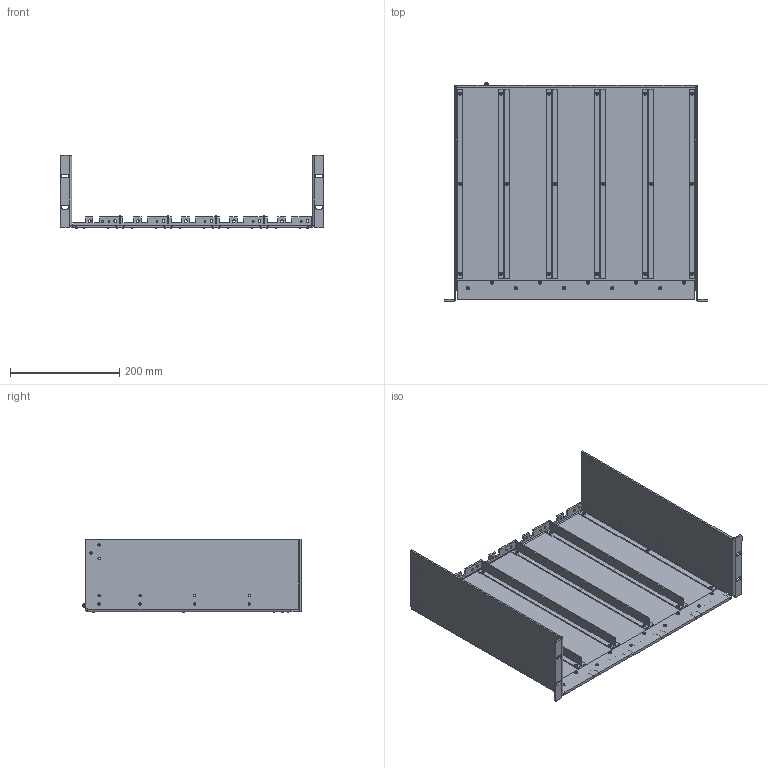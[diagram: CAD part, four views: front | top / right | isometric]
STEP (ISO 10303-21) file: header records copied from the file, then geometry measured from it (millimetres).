
FILE_DESCRIPTION(/* description */ ('','CAx-IF Rec.Pracs.---Representation and Presentation of Product Manufacturing Information (PMI)---4.0---2014-10-13'),/* implementation_level */ '2;1');
FILE_NAME(/* name */ 'E:\CAMTEC_2020_Pack and Go\Subrack_3U\2201005001CA.stp',/* time_stamp */ '2020-09-21T18:31:47+02:00',/* author */ ('rryba'),/* organization */ (''),/* preprocessor_version */ 'ST-DEVELOPER v18.1',/* originating_system */ 'Autodesk Inventor 2021',/* authorisation */ '');
FILE_SCHEMA (('AP242_MANAGED_MODEL_BASED_3D_ENGINEERING_MIM_LF { 1 0 10303 442 1 1 4 }'));
Length unit declared in the file: millimetre
Products named in the file (8): 2201005001CA; 2021076004; 2051050002CA; 2051062002CA; 2051049002CA; 2530396; 2530073; 2530393
Assembly tree (38 placements, depth 2):
  2201005001CA
    2021076004
    2051050002CA
    2051062002CA  x2
    2051049002CA  x4
    2530396  x28
    2530073
    2530393
Bounding box: 483 x 399.86 x 133.95 mm (x, y, z)
Volume: 1001583.9 mm3; surface area: 731990.6 mm2
Topology: 38 solids, 39 shells, 1217 faces, 4478 edges, 4569 vertices
Faces by surface type: plane 453, cone 377, cylinder 245, torus 141, sphere 1
Full cylindrical faces by diameter (mm): 0.314 x1, 2.459 x38, 2.693 x28, 3 x28, 3.242 x6, 3.4 x28, 4 x1, 4.134 x22, 4.3 x1, 5 x10, 5.5 x28, 5.9 x28, 8 x1, 9 x1
Entity records: 12121 total; most frequent: CARTESIAN_POINT 2270, DIRECTION 2000, ORIENTED_EDGE 1706, EDGE_CURVE 853, AXIS2_PLACEMENT_3D 745, VERTEX_POINT 547, EDGE_LOOP 522, LINE 510
